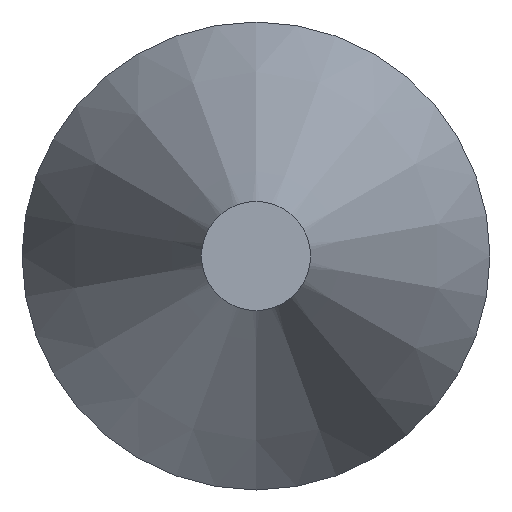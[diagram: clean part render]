
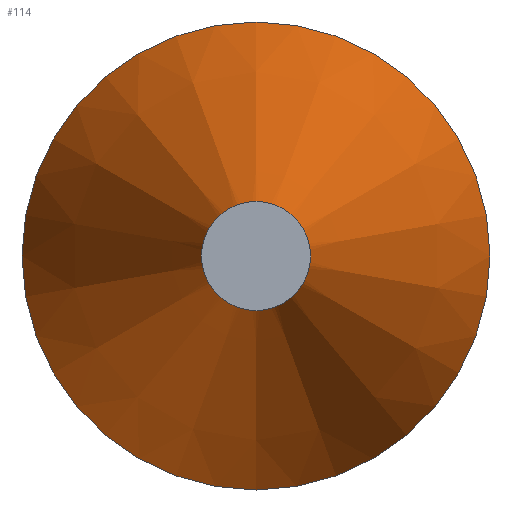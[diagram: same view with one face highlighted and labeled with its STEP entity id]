
A CAD part, left-side view. The second image highlights one B-rep face of the part: STEP entity #114.
In plain terms, the highlighted conical face has half-angle 20 degrees and reference radius 3 mm.
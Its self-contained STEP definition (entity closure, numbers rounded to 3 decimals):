
#95=CONICAL_SURFACE('',#181,3.,20.);
#102=FACE_BOUND('',#128,.T.);
#103=FACE_BOUND('',#129,.T.);
#114=ADVANCED_FACE('',(#102,#103),#95,.T.);
#128=EDGE_LOOP('',(#142));
#129=EDGE_LOOP('',(#143));
#142=ORIENTED_EDGE('',*,*,#162,.T.);
#143=ORIENTED_EDGE('',*,*,#163,.F.);
#155=VERTEX_POINT('',#229);
#156=VERTEX_POINT('',#232);
#162=EDGE_CURVE('',#155,#155,#169,.T.);
#163=EDGE_CURVE('',#156,#156,#170,.T.);
#169=CIRCLE('',#178,0.45);
#170=CIRCLE('',#180,3.);
#178=AXIS2_PLACEMENT_3D('',#228,#198,#199);
#180=AXIS2_PLACEMENT_3D('',#231,#202,#203);
#181=AXIS2_PLACEMENT_3D('',#233,#204,#205);
#198=DIRECTION('',(1.,0.,0.));
#199=DIRECTION('',(0.,0.,-1.));
#202=DIRECTION('',(1.,0.,0.));
#203=DIRECTION('',(0.,0.,-1.));
#204=DIRECTION('',(1.,0.,0.));
#205=DIRECTION('',(0.,0.,-1.));
#228=CARTESIAN_POINT('',(7898.912,6103.288,0.));
#229=CARTESIAN_POINT('',(7898.912,6103.288,-0.45));
#231=CARTESIAN_POINT('',(7905.918,6103.288,0.));
#232=CARTESIAN_POINT('',(7905.918,6103.288,-3.));
#233=CARTESIAN_POINT('',(7905.918,6103.288,0.));
